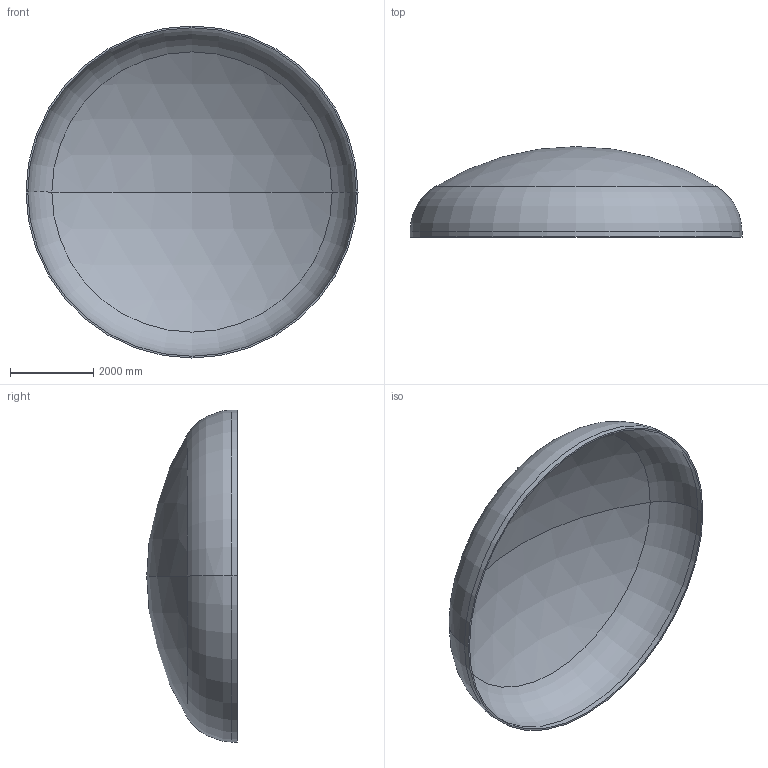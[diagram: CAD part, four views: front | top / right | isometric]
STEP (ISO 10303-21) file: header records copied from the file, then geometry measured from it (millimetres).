
FILE_DESCRIPTION (( 'STEP AP203' ), '1' );
FILE_NAME ('DIN 28013 Korbbogenform_-_Boden DIN 28013 - 8000 x 130 - I - s=42.step', '2016-07-04T11:01:31', ( '' ), ( '' ), 'SwSTEP 2.0', 'SolidWorks 2013', '' );
FILE_SCHEMA (( 'CONFIG_CONTROL_DESIGN' ));
Length unit declared in the file: millimetre
Products named in the file (1): DIN 28013 Korbbogenform_-_Boden DIN 28013 - 8000 x 130 - I - s=42
Bounding box: 8000 x 2180.31 x 8000 mm (x, y, z)
Volume: 3039367055.2 mm3; surface area: 145785435.3 mm2
Topology: 1 solids, 1 shells, 13 faces, 24 edges, 14 vertices
Faces by surface type: torus 4, cylinder 4, sphere 4, plane 1
Entity records: 407 total; most frequent: DIRECTION 72, CARTESIAN_POINT 52, ORIENTED_EDGE 48, AXIS2_PLACEMENT_3D 34, EDGE_CURVE 24, CIRCLE 20, VERTEX_POINT 14, EDGE_LOOP 14
